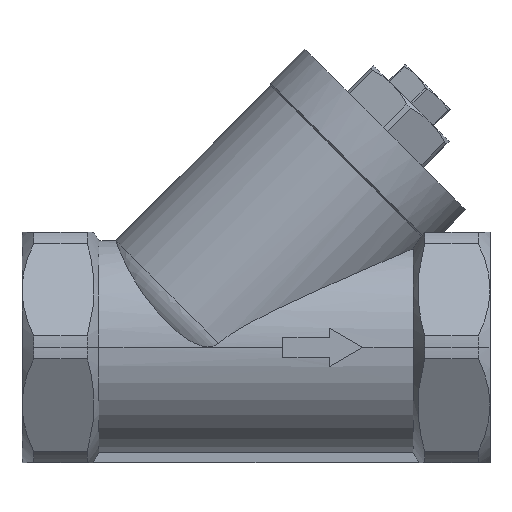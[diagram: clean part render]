
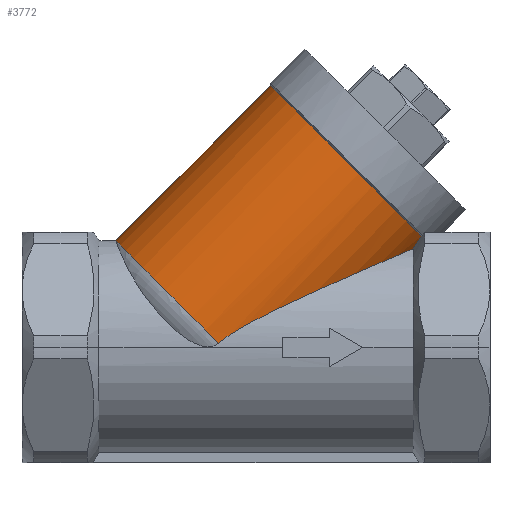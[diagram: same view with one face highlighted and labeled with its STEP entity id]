
A CAD part, top view. The second image highlights one B-rep face of the part: STEP entity #3772.
In plain terms, the highlighted cylindrical face has radius 33.5 mm (diameter 67 mm), a partial arc.
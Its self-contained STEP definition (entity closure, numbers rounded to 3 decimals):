
#61 = ORIENTED_EDGE ( 'NONE', *, *, #3696, .T. ) ;
#101 = EDGE_LOOP ( 'NONE', ( #4183, #61, #167, #256, #484 ) ) ;
#167 = ORIENTED_EDGE ( 'NONE', *, *, #2561, .F. ) ;
#256 = ORIENTED_EDGE ( 'NONE', *, *, #3161, .F. ) ;
#370 = VERTEX_POINT ( 'NONE', #3653 ) ;
#404 = DIRECTION ( 'NONE',  ( -0.707, 0.707, 0. ) ) ;
#473 = CARTESIAN_POINT ( 'NONE',  ( 51.376, 78., 0. ) ) ;
#484 = ORIENTED_EDGE ( 'NONE', *, *, #3695, .F. ) ;
#596 = CYLINDRICAL_SURFACE ( 'NONE', #2633, 33.5 ) ;
#723 = VERTEX_POINT ( 'NONE', #2803 ) ;
#787 = CARTESIAN_POINT ( 'NONE',  ( 36.58, 25.074, 19.887 ) ) ;
#989 = CARTESIAN_POINT ( 'NONE',  ( 41.761, 27.305, 16.71 ) ) ;
#1021 = CARTESIAN_POINT ( 'NONE',  ( 39.504, 26.335, 18.201 ) ) ;
#1171 = CARTESIAN_POINT ( 'NONE',  ( 42.863, 27.778, 15.917 ) ) ;
#1173 = DIRECTION ( 'NONE',  ( 0.707, 0.707, 0. ) ) ;
#1252 = CARTESIAN_POINT ( 'NONE',  ( 44.993, 28.69, 14.206 ) ) ;
#1311 = VERTEX_POINT ( 'NONE', #2577 ) ;
#1366 = FACE_OUTER_BOUND ( 'NONE', #101, .T. ) ;
#1373 = CARTESIAN_POINT ( 'NONE',  ( 46.022, 29.13, 13.29 ) ) ;
#1448 = CARTESIAN_POINT ( 'NONE',  ( 2.195, 9.456, 30.578 ) ) ;
#1471 = CARTESIAN_POINT ( 'NONE',  ( 47., 29.548, 12.285 ) ) ;
#1554 = CARTESIAN_POINT ( 'NONE',  ( -1.604, 7.476, 31.122 ) ) ;
#1610 = CIRCLE ( 'NONE', #2983, 33.5 ) ;
#1614 = DIRECTION ( 'NONE',  ( 0.707, 0.707, 0. ) ) ;
#1625 = CARTESIAN_POINT ( 'NONE',  ( 0.926, 8.81, 30.771 ) ) ;
#1769 = CIRCLE ( 'NONE', #3075, 33.5 ) ;
#1912 = CARTESIAN_POINT ( 'NONE',  ( 47., 29.548, 12.285 ) ) ;
#2062 = CARTESIAN_POINT ( 'NONE',  ( 27.688, 101.688, 0. ) ) ;
#2151 = CARTESIAN_POINT ( 'NONE',  ( 49.443, 33.264, 14.36 ) ) ;
#2284 = EDGE_CURVE ( 'NONE', #2960, #723, #2666, .T. ) ;
#2296 = DIRECTION ( 'NONE',  ( -0.707, 0.707, 0. ) ) ;
#2475 = CARTESIAN_POINT ( 'NONE',  ( 49.443, 33.264, 14.36 ) ) ;
#2545 = DIRECTION ( 'NONE',  ( 0.707, 0.707, 0. ) ) ;
#2561 = EDGE_CURVE ( 'NONE', #1311, #370, #3583, .T. ) ;
#2577 = CARTESIAN_POINT ( 'NONE',  ( 47., 29.548, 12.285 ) ) ;
#2583 = VECTOR ( 'NONE', #3091, 1000. ) ;
#2600 = VERTEX_POINT ( 'NONE', #2151 ) ;
#2633 = AXIS2_PLACEMENT_3D ( 'NONE', #473, #1614, #2296 ) ;
#2666 = LINE ( 'NONE', #2062, #2583 ) ;
#2803 = CARTESIAN_POINT ( 'NONE',  ( 4.354, 78.354, 0. ) ) ;
#2918 = CARTESIAN_POINT ( 'NONE',  ( 35.985, 24.817, 20.206 ) ) ;
#2960 = VERTEX_POINT ( 'NONE', #4372 ) ;
#2983 = AXIS2_PLACEMENT_3D ( 'NONE', #3192, #1173, #3506 ) ;
#3075 = AXIS2_PLACEMENT_3D ( 'NONE', #4373, #2545, #404 ) ;
#3091 = DIRECTION ( 'NONE',  ( 0.707, 0.707, 0. ) ) ;
#3161 = EDGE_CURVE ( 'NONE', #2600, #1311, #4154, .T. ) ;
#3192 = CARTESIAN_POINT ( 'NONE',  ( -18.312, 8.312, 0. ) ) ;
#3425 = CARTESIAN_POINT ( 'NONE',  ( 47.812, 30.767, 13.015 ) ) ;
#3506 = DIRECTION ( 'NONE',  ( -0.707, 0.707, 0. ) ) ;
#3583 = B_SPLINE_CURVE_WITH_KNOTS ( 'NONE', 3,
 ( #1912, #1373, #1252, #1171, #989, #1021, #4133, #787, #2918, #4358, #4269, #4253, #4228, #4189, #4159, #4138, #4117, #4110, #4061, #1448, #1625, #1554, #4024, #3996, #3902, #3871, #3849, #3840 ),
 .UNSPECIFIED., .F., .F.,
 ( 4, 2, 2, 2, 2, 2, 2, 2, 2, 2, 2, 2, 2, 4 ),
 ( 0., 0.004, 0.009, 0.013, 0.015, 0.017, 0.026, 0.034, 0.043, 0.052, 0.056, 0.06, 0.065, 0.069 ),
 .UNSPECIFIED. ) ;
#3653 = CARTESIAN_POINT ( 'NONE',  ( -11.248, 1.248, 31.976 ) ) ;
#3695 = EDGE_CURVE ( 'NONE', #723, #2600, #1769, .T. ) ;
#3696 = EDGE_CURVE ( 'NONE', #2960, #370, #1610, .T. ) ;
#3772 = ADVANCED_FACE ( 'NONE', ( #1366 ), #596, .T. ) ;
#3840 = CARTESIAN_POINT ( 'NONE',  ( -11.248, 1.248, 31.976 ) ) ;
#3849 = CARTESIAN_POINT ( 'NONE',  ( -10.152, 2.179, 31.939 ) ) ;
#3871 = CARTESIAN_POINT ( 'NONE',  ( -8.978, 3.027, 31.867 ) ) ;
#3902 = CARTESIAN_POINT ( 'NONE',  ( -6.58, 4.616, 31.675 ) ) ;
#3996 = CARTESIAN_POINT ( 'NONE',  ( -5.352, 5.359, 31.556 ) ) ;
#4024 = CARTESIAN_POINT ( 'NONE',  ( -2.865, 6.789, 31.28 ) ) ;
#4061 = CARTESIAN_POINT ( 'NONE',  ( 6.008, 11.354, 29.948 ) ) ;
#4110 = CARTESIAN_POINT ( 'NONE',  ( 8.556, 12.566, 29.459 ) ) ;
#4117 = CARTESIAN_POINT ( 'NONE',  ( 13.636, 14.932, 28.333 ) ) ;
#4133 = CARTESIAN_POINT ( 'NONE',  ( 38.348, 25.837, 18.898 ) ) ;
#4138 = CARTESIAN_POINT ( 'NONE',  ( 16.169, 16.085, 27.696 ) ) ;
#4154 = B_SPLINE_CURVE_WITH_KNOTS ( 'NONE', 3,
 ( #2475, #4318, #3425, #1471 ),
 .UNSPECIFIED., .F., .F.,
 ( 4, 4 ),
 ( 0.002, 0.007 ),
 .UNSPECIFIED. ) ;
#4159 = CARTESIAN_POINT ( 'NONE',  ( 21.208, 18.349, 26.251 ) ) ;
#4183 = ORIENTED_EDGE ( 'NONE', *, *, #2284, .F. ) ;
#4189 = CARTESIAN_POINT ( 'NONE',  ( 23.713, 19.459, 25.443 ) ) ;
#4228 = CARTESIAN_POINT ( 'NONE',  ( 28.68, 21.644, 23.613 ) ) ;
#4253 = CARTESIAN_POINT ( 'NONE',  ( 31.142, 22.718, 22.592 ) ) ;
#4269 = CARTESIAN_POINT ( 'NONE',  ( 34.179, 24.035, 21.13 ) ) ;
#4318 = CARTESIAN_POINT ( 'NONE',  ( 48.627, 32.007, 13.704 ) ) ;
#4358 = CARTESIAN_POINT ( 'NONE',  ( 34.785, 24.298, 20.828 ) ) ;
#4372 = CARTESIAN_POINT ( 'NONE',  ( -42., 32., 0. ) ) ;
#4373 = CARTESIAN_POINT ( 'NONE',  ( 28.042, 54.665, 0. ) ) ;
